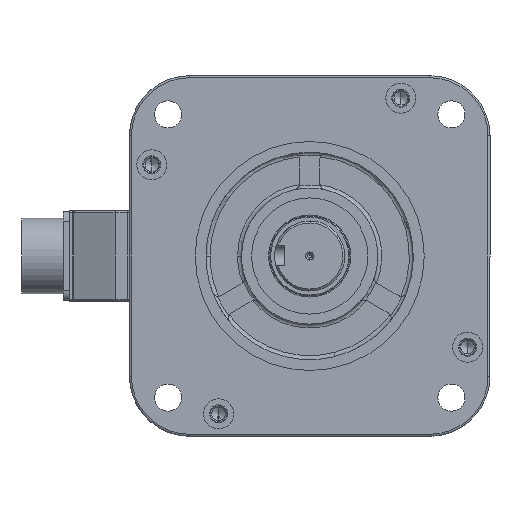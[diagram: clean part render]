
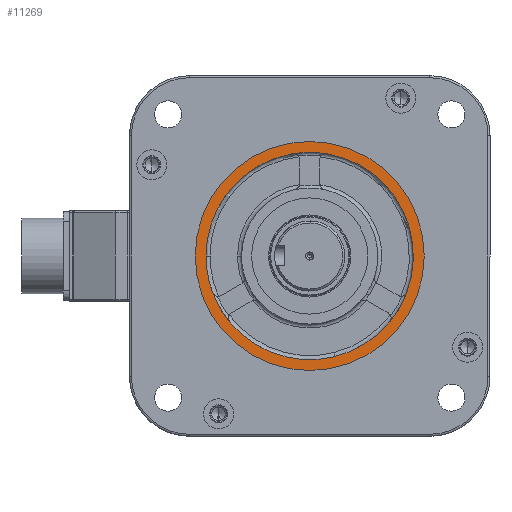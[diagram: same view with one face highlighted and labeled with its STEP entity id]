
A CAD part, left-side view. The second image highlights one B-rep face of the part: STEP entity #11269.
In plain terms, the highlighted planar face has unit normal (-1, 0, 0) as drawn and (0, 0, 1) by its records, which use the part's own axes.
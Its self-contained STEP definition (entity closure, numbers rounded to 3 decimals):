
#88 = CARTESIAN_POINT ( 'NONE',  ( 0., 0., 21. ) ) ;
#1307 = CARTESIAN_POINT ( 'NONE',  ( 0., 0., 21. ) ) ;
#1894 = CIRCLE ( 'NONE', #22333, 57.15 ) ;
#1929 = ORIENTED_EDGE ( 'NONE', *, *, #12685, .T. ) ;
#2269 = AXIS2_PLACEMENT_3D ( 'NONE', #88, #33994, #24205 ) ;
#3176 = DIRECTION ( 'NONE',  ( 0., 0., 1. ) ) ;
#3233 = VERTEX_POINT ( 'NONE', #58833 ) ;
#3758 = DIRECTION ( 'NONE',  ( 1., 0., 0. ) ) ;
#5434 = CIRCLE ( 'NONE', #13236, 51.75 ) ;
#8100 = DIRECTION ( 'NONE',  ( 0., 0., 1. ) ) ;
#8239 = DIRECTION ( 'NONE',  ( 0., 0., 1. ) ) ;
#8439 = ORIENTED_EDGE ( 'NONE', *, *, #12301, .F. ) ;
#8673 = DIRECTION ( 'NONE',  ( 1., 0., 0. ) ) ;
#9907 = EDGE_CURVE ( 'NONE', #51174, #24610, #31321, .T. ) ;
#9977 = CARTESIAN_POINT ( 'NONE',  ( 0., 0., 21. ) ) ;
#11036 = EDGE_CURVE ( 'NONE', #15651, #51174, #38367, .T. ) ;
#11251 = EDGE_CURVE ( 'NONE', #36451, #15651, #55955, .T. ) ;
#11269 = ADVANCED_FACE ( 'NONE', ( #47753, #37386 ), #23301, .T. ) ;
#11479 = DIRECTION ( 'NONE',  ( 1., 0., 0. ) ) ;
#12301 = EDGE_CURVE ( 'NONE', #56996, #3233, #14056, .T. ) ;
#12685 = EDGE_CURVE ( 'NONE', #45064, #50370, #13173, .T. ) ;
#13173 = CIRCLE ( 'NONE', #27810, 57.15 ) ;
#13236 = AXIS2_PLACEMENT_3D ( 'NONE', #27275, #41353, #45924 ) ;
#14056 = CIRCLE ( 'NONE', #48242, 51.75 ) ;
#15523 = CARTESIAN_POINT ( 'NONE',  ( -57.15, 0., 21. ) ) ;
#15651 = VERTEX_POINT ( 'NONE', #16134 ) ;
#16134 = CARTESIAN_POINT ( 'NONE',  ( 48.455, 18.17, 21. ) ) ;
#17889 = CARTESIAN_POINT ( 'NONE',  ( 0., 0., 21. ) ) ;
#19665 = AXIS2_PLACEMENT_3D ( 'NONE', #9977, #8239, #31472 ) ;
#22333 = AXIS2_PLACEMENT_3D ( 'NONE', #50280, #31911, #8673 ) ;
#22488 = ORIENTED_EDGE ( 'NONE', *, *, #9907, .F. ) ;
#22490 = CARTESIAN_POINT ( 'NONE',  ( 0., 0., 21. ) ) ;
#23301 = PLANE ( 'NONE',  #41317 ) ;
#24205 = DIRECTION ( 'NONE',  ( 1., 0., 0. ) ) ;
#24351 = CARTESIAN_POINT ( 'NONE',  ( 0., 0., 21. ) ) ;
#24610 = VERTEX_POINT ( 'NONE', #53971 ) ;
#25252 = AXIS2_PLACEMENT_3D ( 'NONE', #22490, #41166, #31647 ) ;
#26196 = CARTESIAN_POINT ( 'NONE',  ( -8.492, -51.048, 21. ) ) ;
#26650 = ORIENTED_EDGE ( 'NONE', *, *, #52717, .F. ) ;
#27275 = CARTESIAN_POINT ( 'NONE',  ( 0., 0., 21. ) ) ;
#27810 = AXIS2_PLACEMENT_3D ( 'NONE', #45352, #3176, #3758 ) ;
#28544 = ORIENTED_EDGE ( 'NONE', *, *, #59860, .F. ) ;
#29511 = ORIENTED_EDGE ( 'NONE', *, *, #11251, .F. ) ;
#30533 = DIRECTION ( 'NONE',  ( 1., 0., 0. ) ) ;
#31321 = CIRCLE ( 'NONE', #19665, 51.75 ) ;
#31472 = DIRECTION ( 'NONE',  ( 1., 0., 0. ) ) ;
#31598 = AXIS2_PLACEMENT_3D ( 'NONE', #45801, #50377, #30533 ) ;
#31647 = DIRECTION ( 'NONE',  ( 1., 0., 0. ) ) ;
#31911 = DIRECTION ( 'NONE',  ( 0., 0., 1. ) ) ;
#32084 = CIRCLE ( 'NONE', #25252, 51.75 ) ;
#33994 = DIRECTION ( 'NONE',  ( 0., 0., 1. ) ) ;
#36451 = VERTEX_POINT ( 'NONE', #56928 ) ;
#37386 = FACE_OUTER_BOUND ( 'NONE', #40818, .T. ) ;
#38324 = CARTESIAN_POINT ( 'NONE',  ( 39.963, 32.879, 21. ) ) ;
#38367 = CIRCLE ( 'NONE', #51036, 51.75 ) ;
#38602 = DIRECTION ( 'NONE',  ( 1., 0., 0. ) ) ;
#40818 = EDGE_LOOP ( 'NONE', ( #1929, #58569 ) ) ;
#41166 = DIRECTION ( 'NONE',  ( 0., 0., 1. ) ) ;
#41317 = AXIS2_PLACEMENT_3D ( 'NONE', #1307, #56016, #38602 ) ;
#41353 = DIRECTION ( 'NONE',  ( 0., 0., 1. ) ) ;
#43972 = EDGE_CURVE ( 'NONE', #3233, #36451, #5434, .T. ) ;
#45064 = VERTEX_POINT ( 'NONE', #15523 ) ;
#45352 = CARTESIAN_POINT ( 'NONE',  ( 0., 0., 21. ) ) ;
#45424 = DIRECTION ( 'NONE',  ( 1., 0., 0. ) ) ;
#45801 = CARTESIAN_POINT ( 'NONE',  ( 0., 0., 21. ) ) ;
#45924 = DIRECTION ( 'NONE',  ( 1., 0., 0. ) ) ;
#47541 = ORIENTED_EDGE ( 'NONE', *, *, #43972, .F. ) ;
#47753 = FACE_BOUND ( 'NONE', #56714, .T. ) ;
#48242 = AXIS2_PLACEMENT_3D ( 'NONE', #17889, #8100, #45424 ) ;
#49224 = CIRCLE ( 'NONE', #31598, 51.75 ) ;
#50280 = CARTESIAN_POINT ( 'NONE',  ( 0., 0., 21. ) ) ;
#50370 = VERTEX_POINT ( 'NONE', #52208 ) ;
#50377 = DIRECTION ( 'NONE',  ( 0., 0., 1. ) ) ;
#51036 = AXIS2_PLACEMENT_3D ( 'NONE', #24351, #53386, #11479 ) ;
#51174 = VERTEX_POINT ( 'NONE', #38324 ) ;
#52148 = VERTEX_POINT ( 'NONE', #57242 ) ;
#52208 = CARTESIAN_POINT ( 'NONE',  ( 57.15, 0., 21. ) ) ;
#52717 = EDGE_CURVE ( 'NONE', #52148, #56996, #49224, .T. ) ;
#53386 = DIRECTION ( 'NONE',  ( 0., 0., 1. ) ) ;
#53971 = CARTESIAN_POINT ( 'NONE',  ( -39.963, 32.879, 21. ) ) ;
#55955 = CIRCLE ( 'NONE', #2269, 51.75 ) ;
#56016 = DIRECTION ( 'NONE',  ( 0., 0., 1. ) ) ;
#56714 = EDGE_LOOP ( 'NONE', ( #59548, #29511, #47541, #8439, #26650, #28544, #22488 ) ) ;
#56928 = CARTESIAN_POINT ( 'NONE',  ( 51.75, 0., 21. ) ) ;
#56996 = VERTEX_POINT ( 'NONE', #26196 ) ;
#57242 = CARTESIAN_POINT ( 'NONE',  ( -48.455, 18.17, 21. ) ) ;
#58569 = ORIENTED_EDGE ( 'NONE', *, *, #58692, .T. ) ;
#58692 = EDGE_CURVE ( 'NONE', #50370, #45064, #1894, .T. ) ;
#58833 = CARTESIAN_POINT ( 'NONE',  ( 8.492, -51.048, 21. ) ) ;
#59548 = ORIENTED_EDGE ( 'NONE', *, *, #11036, .F. ) ;
#59860 = EDGE_CURVE ( 'NONE', #24610, #52148, #32084, .T. ) ;
